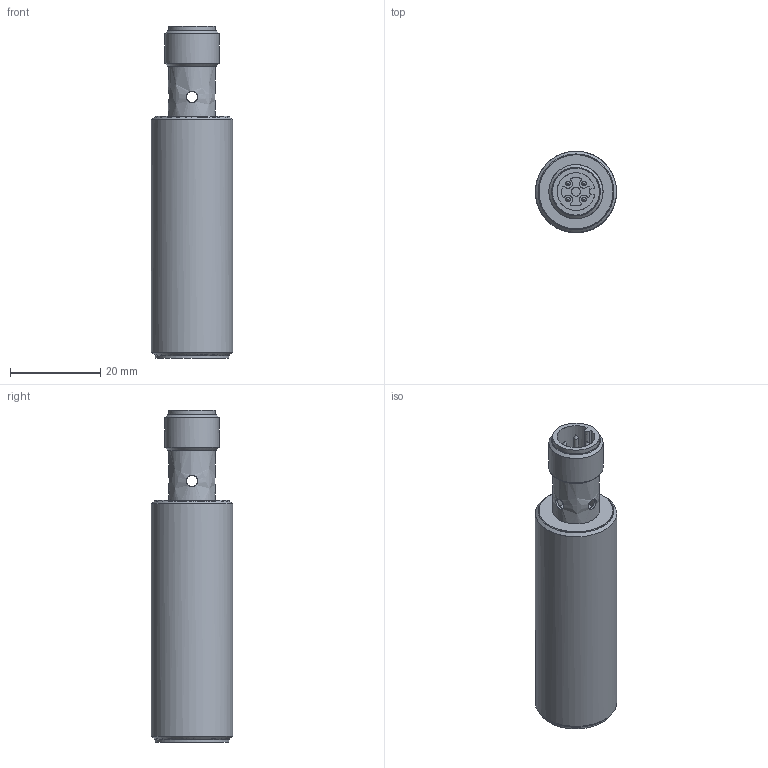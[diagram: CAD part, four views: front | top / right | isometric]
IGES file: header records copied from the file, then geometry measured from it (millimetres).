
Global section: file name: D:\dd\DSD-0336.igs; preprocessor: I-DEAS 3D IGES Translator 13; date: 20100125.170354; units: millimetre
Bounding box: 17.98 x 17.99 x 73.5 mm (x, y, z)
Surface area: 8234.5 mm2
Topology: 4 solids, 4 shells, 77 faces, 500 edges, 440 vertices
Faces by surface type: bspline 77
